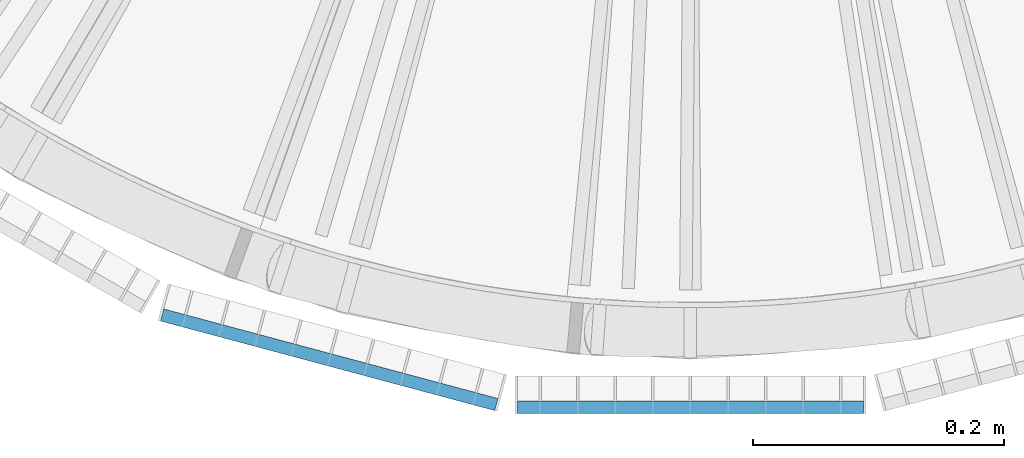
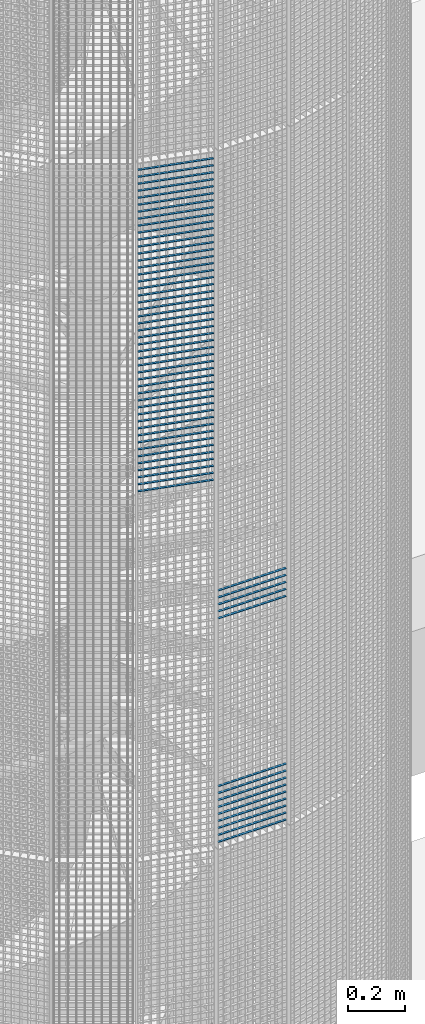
# One storey, part 143 of 1148: 61 beams, 2 elements without a shape of their own.
"""IFC2X3 building model written with IfcOpenShell, lengths in millimetres."""

from ifc_helpers import new_model, si_unit, frame, origin_with_axes, origin_2d_with_axis, place, context, subcontext, project, spatial, rectangle, extrude, material, type_object, element, aggregate, save


model = new_model("IFC2X3")

# Units and contexts
model_context = context("Model", 3, precision=1e-05, world=origin_with_axes())
body_context = subcontext(model_context, "Body", "Model", "MODEL_VIEW")
ifc_project = project(units=[si_unit("LENGTHUNIT", "METRE", prefix="MILLI"), si_unit("AREAUNIT", "SQUARE_METRE"), si_unit("VOLUMEUNIT", "CUBIC_METRE"), si_unit("MASSUNIT", "GRAM", prefix="KILO"), si_unit("TIMEUNIT", "SECOND"), si_unit("PLANEANGLEUNIT", "RADIAN"), si_unit("SOLIDANGLEUNIT", "STERADIAN"), si_unit("THERMODYNAMICTEMPERATUREUNIT", "DEGREE_CELSIUS"), si_unit("LUMINOUSINTENSITYUNIT", "LUMEN")], contexts=[model_context])

# Site, building, storey
site_placement = place(None, origin_with_axes())
site = spatial("IfcSite", under=ifc_project, at=site_placement, Name="Undefined", CompositionType="ELEMENT")
building_placement = place(site_placement, origin_with_axes())
building = spatial("IfcBuilding", under=site, at=building_placement, Name="Undefined", CompositionType="ELEMENT")
storey_placement = place(building_placement, origin_with_axes())
storey = spatial("IfcBuildingStorey", under=building, at=storey_placement, Name="Undefined", CompositionType="ELEMENT", Elevation=0.0)

# Assembly, beams
assembly_1_placement = place(storey_placement, origin_with_axes())
assembly_1 = element("IfcElementAssembly", 1, at=assembly_1_placement, inside=storey, Name="BORDURE", AssemblyPlace="NOTDEFINED", PredefinedType="NOTDEFINED")
ifc_material = material(Name="STEEL/S235JR")
beam_type = type_object("IfcBeamType", Name="PL2*10", PredefinedType="NOTDEFINED")
beam_1_placement = place(assembly_1_placement, frame((-137.996003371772, -1113.47999999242, 12270.0), z_axis=(0.0, -1.0, 0.0), x_axis=(1.0, 0.0, 0.0)))
beam_1 = element("IfcBeam", 2, at=beam_1_placement, type_object=beam_type, material=ifc_material, Name="ENTRETOISE", context=body_context, shape_type="SweptSolid", body=[
    extrude(rectangle(XDim=2.0, YDim=10.0, at=origin_2d_with_axis()), frame((275.999999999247, 9.09494701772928e-13, 1.53210777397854e-14), z_axis=(-1.0, 0.0, 0.0), x_axis=(0.0, -1.0, 0.0)), (0.0, 0.0, 1.0), 276.0),
])
beam_2_placement = place(assembly_1_placement, frame((-137.996003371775, -1113.47999999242, 12990.0), z_axis=(0.0, -1.0, 0.0), x_axis=(1.0, 0.0, 0.0)))
beam_2 = element("IfcBeam", 3, at=beam_2_placement, type_object=beam_type, material=ifc_material, Name="ENTRETOISE", context=body_context, shape_type="SweptSolid", body=[
    extrude(rectangle(XDim=2.0, YDim=10.0, at=origin_2d_with_axis()), frame((275.999999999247, 9.09494701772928e-13, 1.53210777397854e-14), z_axis=(-1.0, 0.0, 0.0), x_axis=(0.0, -1.0, 0.0)), (0.0, 0.0, 1.0), 276.0),
])
beam_3_placement = place(assembly_1_placement, frame((-137.996003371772, -1113.47999999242, 12240.0), z_axis=(0.0, -1.0, 0.0), x_axis=(1.0, 0.0, 0.0)))
beam_3 = element("IfcBeam", 4, at=beam_3_placement, type_object=beam_type, material=ifc_material, Name="ENTRETOISE", context=body_context, shape_type="SweptSolid", body=[
    extrude(rectangle(XDim=2.0, YDim=10.0, at=origin_2d_with_axis()), frame((275.999999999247, 9.09494701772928e-13, 1.53210777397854e-14), z_axis=(-1.0, 0.0, 0.0), x_axis=(0.0, -1.0, 0.0)), (0.0, 0.0, 1.0), 276.0),
])
beam_4_placement = place(assembly_1_placement, frame((-137.996003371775, -1113.47999999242, 13020.0), z_axis=(0.0, -1.0, 0.0), x_axis=(1.0, 0.0, 0.0)))
beam_4 = element("IfcBeam", 5, at=beam_4_placement, type_object=beam_type, material=ifc_material, Name="ENTRETOISE", context=body_context, shape_type="SweptSolid", body=[
    extrude(rectangle(XDim=2.0, YDim=10.0, at=origin_2d_with_axis()), frame((275.999999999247, 9.09494701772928e-13, 1.53210777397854e-14), z_axis=(-1.0, 0.0, 0.0), x_axis=(0.0, -1.0, 0.0)), (0.0, 0.0, 1.0), 276.0),
])
beam_5_placement = place(assembly_1_placement, frame((-137.996003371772, -1113.47999999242, 12210.0), z_axis=(0.0, -1.0, 0.0), x_axis=(1.0, 0.0, 0.0)))
beam_5 = element("IfcBeam", 6, at=beam_5_placement, type_object=beam_type, material=ifc_material, Name="ENTRETOISE", context=body_context, shape_type="SweptSolid", body=[
    extrude(rectangle(XDim=2.0, YDim=10.0, at=origin_2d_with_axis()), frame((275.999999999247, 9.09494701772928e-13, 1.53210777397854e-14), z_axis=(-1.0, 0.0, 0.0), x_axis=(0.0, -1.0, 0.0)), (0.0, 0.0, 1.0), 276.0),
])
beam_6_placement = place(assembly_1_placement, frame((-137.996003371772, -1113.47999999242, 12180.0), z_axis=(0.0, -1.0, 0.0), x_axis=(1.0, 0.0, 0.0)))
beam_6 = element("IfcBeam", 7, at=beam_6_placement, type_object=beam_type, material=ifc_material, Name="ENTRETOISE", context=body_context, shape_type="SweptSolid", body=[
    extrude(rectangle(XDim=2.0, YDim=10.0, at=origin_2d_with_axis()), frame((275.999999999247, 9.09494701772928e-13, 1.53210777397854e-14), z_axis=(-1.0, 0.0, 0.0), x_axis=(0.0, -1.0, 0.0)), (0.0, 0.0, 1.0), 276.0),
])
beam_7_placement = place(assembly_1_placement, frame((-137.996003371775, -1113.47999999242, 13050.0), z_axis=(0.0, -1.0, 0.0), x_axis=(1.0, 0.0, 0.0)))
beam_7 = element("IfcBeam", 8, at=beam_7_placement, type_object=beam_type, material=ifc_material, Name="ENTRETOISE", context=body_context, shape_type="SweptSolid", body=[
    extrude(rectangle(XDim=2.0, YDim=10.0, at=origin_2d_with_axis()), frame((275.999999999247, 9.09494701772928e-13, 1.53210777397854e-14), z_axis=(-1.0, 0.0, 0.0), x_axis=(0.0, -1.0, 0.0)), (0.0, 0.0, 1.0), 276.0),
])
beam_8_placement = place(assembly_1_placement, frame((-137.996003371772, -1113.47999999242, 12150.0), z_axis=(0.0, -1.0, 0.0), x_axis=(1.0, 0.0, 0.0)))
beam_8 = element("IfcBeam", 9, at=beam_8_placement, type_object=beam_type, material=ifc_material, Name="ENTRETOISE", context=body_context, shape_type="SweptSolid", body=[
    extrude(rectangle(XDim=2.0, YDim=10.0, at=origin_2d_with_axis()), frame((275.999999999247, 9.09494701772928e-13, 1.53210777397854e-14), z_axis=(-1.0, 0.0, 0.0), x_axis=(0.0, -1.0, 0.0)), (0.0, 0.0, 1.0), 276.0),
])
beam_9_placement = place(assembly_1_placement, frame((-137.996003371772, -1113.47999999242, 12120.0), z_axis=(0.0, -1.0, 0.0), x_axis=(1.0, 0.0, 0.0)))
beam_9 = element("IfcBeam", 10, at=beam_9_placement, type_object=beam_type, material=ifc_material, Name="ENTRETOISE", context=body_context, shape_type="SweptSolid", body=[
    extrude(rectangle(XDim=2.0, YDim=10.0, at=origin_2d_with_axis()), frame((275.999999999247, 9.09494701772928e-13, 1.53210777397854e-14), z_axis=(-1.0, 0.0, 0.0), x_axis=(0.0, -1.0, 0.0)), (0.0, 0.0, 1.0), 276.0),
])
beam_10_placement = place(assembly_1_placement, frame((-137.996003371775, -1113.47999999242, 13080.0), z_axis=(0.0, -1.0, 0.0), x_axis=(1.0, 0.0, 0.0)))
beam_10 = element("IfcBeam", 11, at=beam_10_placement, type_object=beam_type, material=ifc_material, Name="ENTRETOISE", context=body_context, shape_type="SweptSolid", body=[
    extrude(rectangle(XDim=2.0, YDim=10.0, at=origin_2d_with_axis()), frame((275.999999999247, 9.09494701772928e-13, 1.53210777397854e-14), z_axis=(-1.0, 0.0, 0.0), x_axis=(0.0, -1.0, 0.0)), (0.0, 0.0, 1.0), 276.0),
])
beam_11_placement = place(assembly_1_placement, frame((-137.996003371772, -1113.47999999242, 12090.0), z_axis=(0.0, -1.0, 0.0), x_axis=(1.0, 0.0, 0.0)))
beam_11 = element("IfcBeam", 12, at=beam_11_placement, type_object=beam_type, material=ifc_material, Name="ENTRETOISE", context=body_context, shape_type="SweptSolid", body=[
    extrude(rectangle(XDim=2.0, YDim=10.0, at=origin_2d_with_axis()), frame((275.999999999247, 9.09494701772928e-13, 1.53210777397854e-14), z_axis=(-1.0, 0.0, 0.0), x_axis=(0.0, -1.0, 0.0)), (0.0, 0.0, 1.0), 276.0),
])
beam_12_placement = place(assembly_1_placement, frame((-137.996003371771, -1113.47999999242, 12060.0), z_axis=(0.0, -1.0, 0.0), x_axis=(1.0, 0.0, 0.0)))
beam_12 = element("IfcBeam", 13, at=beam_12_placement, type_object=beam_type, material=ifc_material, Name="ENTRETOISE", context=body_context, shape_type="SweptSolid", body=[
    extrude(rectangle(XDim=2.0, YDim=10.0, at=origin_2d_with_axis()), frame((275.999999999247, 9.09494701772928e-13, 1.53210777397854e-14), z_axis=(-1.0, 0.0, 0.0), x_axis=(0.0, -1.0, 0.0)), (0.0, 0.0, 1.0), 276.0),
])
beam_13_placement = place(assembly_1_placement, frame((-137.996003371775, -1113.47999999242, 13110.0), z_axis=(0.0, -1.0, 0.0), x_axis=(1.0, 0.0, 0.0)))
beam_13 = element("IfcBeam", 14, at=beam_13_placement, type_object=beam_type, material=ifc_material, Name="ENTRETOISE", context=body_context, shape_type="SweptSolid", body=[
    extrude(rectangle(XDim=2.0, YDim=10.0, at=origin_2d_with_axis()), frame((275.999999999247, 9.09494701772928e-13, 1.53210777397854e-14), z_axis=(-1.0, 0.0, 0.0), x_axis=(0.0, -1.0, 0.0)), (0.0, 0.0, 1.0), 276.0),
])
beam_14_placement = place(assembly_1_placement, frame((-137.99600337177, -1113.47999999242, 12030.0), z_axis=(0.0, -1.0, 0.0), x_axis=(1.0, 0.0, 0.0)))
beam_14 = element("IfcBeam", 15, at=beam_14_placement, type_object=beam_type, material=ifc_material, Name="ENTRETOISE", context=body_context, shape_type="SweptSolid", body=[
    extrude(rectangle(XDim=2.0, YDim=10.0, at=origin_2d_with_axis()), frame((275.999999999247, 9.09494701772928e-13, 1.53210777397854e-14), z_axis=(-1.0, 0.0, 0.0), x_axis=(0.0, -1.0, 0.0)), (0.0, 0.0, 1.0), 276.0),
])
aggregate(assembly_1, [beam_1, beam_2, beam_3, beam_4, beam_5, beam_6, beam_7, beam_8, beam_9, beam_10, beam_11, beam_12, beam_13, beam_14])

assembly_2_placement = place(storey_placement, origin_with_axes())
assembly_2 = element("IfcElementAssembly", 16, at=assembly_2_placement, inside=storey, Name="BORDURE", AssemblyPlace="NOTDEFINED", PredefinedType="NOTDEFINED")
beam_15_placement = place(assembly_2_placement, frame((-421.483733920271, -1039.82309522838, 14970.0), z_axis=(-0.258819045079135, -0.965925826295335, 0.0), x_axis=(0.965925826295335, -0.258819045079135, 0.0)))
beam_15 = element("IfcBeam", 17, at=beam_15_placement, type_object=beam_type, material=ifc_material, Name="ENTRETOISE", context=body_context, shape_type="SweptSolid", body=[
    extrude(rectangle(XDim=2.0, YDim=10.0, at=origin_2d_with_axis()), frame((275.999999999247, 9.09494701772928e-13, 1.53210777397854e-14), z_axis=(-1.0, 0.0, 0.0), x_axis=(0.0, -1.0, 0.0)), (0.0, 0.0, 1.0), 276.0),
])
beam_16_placement = place(assembly_2_placement, frame((-421.483733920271, -1039.82309522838, 14940.0), z_axis=(-0.258819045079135, -0.965925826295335, 0.0), x_axis=(0.965925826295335, -0.258819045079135, 0.0)))
beam_16 = element("IfcBeam", 18, at=beam_16_placement, type_object=beam_type, material=ifc_material, Name="ENTRETOISE", context=body_context, shape_type="SweptSolid", body=[
    extrude(rectangle(XDim=2.0, YDim=10.0, at=origin_2d_with_axis()), frame((275.999999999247, 9.09494701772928e-13, 1.53210777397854e-14), z_axis=(-1.0, 0.0, 0.0), x_axis=(0.0, -1.0, 0.0)), (0.0, 0.0, 1.0), 276.0),
])
beam_17_placement = place(assembly_2_placement, frame((-421.483733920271, -1039.82309522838, 14910.0), z_axis=(-0.258819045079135, -0.965925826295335, 0.0), x_axis=(0.965925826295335, -0.258819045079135, 0.0)))
beam_17 = element("IfcBeam", 19, at=beam_17_placement, type_object=beam_type, material=ifc_material, Name="ENTRETOISE", context=body_context, shape_type="SweptSolid", body=[
    extrude(rectangle(XDim=2.0, YDim=10.0, at=origin_2d_with_axis()), frame((275.999999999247, 9.09494701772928e-13, 1.53210777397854e-14), z_axis=(-1.0, 0.0, 0.0), x_axis=(0.0, -1.0, 0.0)), (0.0, 0.0, 1.0), 276.0),
])
beam_18_placement = place(assembly_2_placement, frame((-421.483733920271, -1039.82309522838, 14880.0), z_axis=(-0.258819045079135, -0.965925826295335, 0.0), x_axis=(0.965925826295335, -0.258819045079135, 0.0)))
beam_18 = element("IfcBeam", 20, at=beam_18_placement, type_object=beam_type, material=ifc_material, Name="ENTRETOISE", context=body_context, shape_type="SweptSolid", body=[
    extrude(rectangle(XDim=2.0, YDim=10.0, at=origin_2d_with_axis()), frame((275.999999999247, 9.09494701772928e-13, 1.53210777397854e-14), z_axis=(-1.0, 0.0, 0.0), x_axis=(0.0, -1.0, 0.0)), (0.0, 0.0, 1.0), 276.0),
])
beam_19_placement = place(assembly_2_placement, frame((-421.483733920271, -1039.82309522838, 14850.0), z_axis=(-0.258819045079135, -0.965925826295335, 0.0), x_axis=(0.965925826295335, -0.258819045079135, 0.0)))
beam_19 = element("IfcBeam", 21, at=beam_19_placement, type_object=beam_type, material=ifc_material, Name="ENTRETOISE", context=body_context, shape_type="SweptSolid", body=[
    extrude(rectangle(XDim=2.0, YDim=10.0, at=origin_2d_with_axis()), frame((275.999999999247, 9.09494701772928e-13, 1.53210777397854e-14), z_axis=(-1.0, 0.0, 0.0), x_axis=(0.0, -1.0, 0.0)), (0.0, 0.0, 1.0), 276.0),
])
beam_20_placement = place(assembly_2_placement, frame((-421.483733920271, -1039.82309522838, 14820.0), z_axis=(-0.258819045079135, -0.965925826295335, 0.0), x_axis=(0.965925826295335, -0.258819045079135, 0.0)))
beam_20 = element("IfcBeam", 22, at=beam_20_placement, type_object=beam_type, material=ifc_material, Name="ENTRETOISE", context=body_context, shape_type="SweptSolid", body=[
    extrude(rectangle(XDim=2.0, YDim=10.0, at=origin_2d_with_axis()), frame((275.999999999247, 9.09494701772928e-13, 1.53210777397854e-14), z_axis=(-1.0, 0.0, 0.0), x_axis=(0.0, -1.0, 0.0)), (0.0, 0.0, 1.0), 276.0),
])
beam_21_placement = place(assembly_2_placement, frame((-421.483733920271, -1039.82309522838, 14790.0), z_axis=(-0.258819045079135, -0.965925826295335, 0.0), x_axis=(0.965925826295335, -0.258819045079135, 0.0)))
beam_21 = element("IfcBeam", 23, at=beam_21_placement, type_object=beam_type, material=ifc_material, Name="ENTRETOISE", context=body_context, shape_type="SweptSolid", body=[
    extrude(rectangle(XDim=2.0, YDim=10.0, at=origin_2d_with_axis()), frame((275.999999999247, 9.09494701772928e-13, 1.53210777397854e-14), z_axis=(-1.0, 0.0, 0.0), x_axis=(0.0, -1.0, 0.0)), (0.0, 0.0, 1.0), 276.0),
])
beam_22_placement = place(assembly_2_placement, frame((-421.483733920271, -1039.82309522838, 14760.0), z_axis=(-0.258819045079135, -0.965925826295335, 0.0), x_axis=(0.965925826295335, -0.258819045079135, 0.0)))
beam_22 = element("IfcBeam", 24, at=beam_22_placement, type_object=beam_type, material=ifc_material, Name="ENTRETOISE", context=body_context, shape_type="SweptSolid", body=[
    extrude(rectangle(XDim=2.0, YDim=10.0, at=origin_2d_with_axis()), frame((275.999999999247, 9.09494701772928e-13, 1.53210777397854e-14), z_axis=(-1.0, 0.0, 0.0), x_axis=(0.0, -1.0, 0.0)), (0.0, 0.0, 1.0), 276.0),
])
beam_23_placement = place(assembly_2_placement, frame((-421.483733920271, -1039.82309522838, 14730.0), z_axis=(-0.258819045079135, -0.965925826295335, 0.0), x_axis=(0.965925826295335, -0.258819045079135, 0.0)))
beam_23 = element("IfcBeam", 25, at=beam_23_placement, type_object=beam_type, material=ifc_material, Name="ENTRETOISE", context=body_context, shape_type="SweptSolid", body=[
    extrude(rectangle(XDim=2.0, YDim=10.0, at=origin_2d_with_axis()), frame((275.999999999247, 9.09494701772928e-13, 1.53210777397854e-14), z_axis=(-1.0, 0.0, 0.0), x_axis=(0.0, -1.0, 0.0)), (0.0, 0.0, 1.0), 276.0),
])
beam_24_placement = place(assembly_2_placement, frame((-421.48373392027, -1039.82309522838, 14700.0), z_axis=(-0.258819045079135, -0.965925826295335, 0.0), x_axis=(0.965925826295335, -0.258819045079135, 0.0)))
beam_24 = element("IfcBeam", 26, at=beam_24_placement, type_object=beam_type, material=ifc_material, Name="ENTRETOISE", context=body_context, shape_type="SweptSolid", body=[
    extrude(rectangle(XDim=2.0, YDim=10.0, at=origin_2d_with_axis()), frame((275.999999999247, 9.09494701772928e-13, 1.53210777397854e-14), z_axis=(-1.0, 0.0, 0.0), x_axis=(0.0, -1.0, 0.0)), (0.0, 0.0, 1.0), 276.0),
])
beam_25_placement = place(assembly_2_placement, frame((-421.48373392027, -1039.82309522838, 14670.0), z_axis=(-0.258819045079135, -0.965925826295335, 0.0), x_axis=(0.965925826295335, -0.258819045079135, 0.0)))
beam_25 = element("IfcBeam", 27, at=beam_25_placement, type_object=beam_type, material=ifc_material, Name="ENTRETOISE", context=body_context, shape_type="SweptSolid", body=[
    extrude(rectangle(XDim=2.0, YDim=10.0, at=origin_2d_with_axis()), frame((275.999999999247, 9.09494701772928e-13, 1.53210777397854e-14), z_axis=(-1.0, 0.0, 0.0), x_axis=(0.0, -1.0, 0.0)), (0.0, 0.0, 1.0), 276.0),
])
beam_26_placement = place(assembly_2_placement, frame((-421.48373392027, -1039.82309522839, 14640.0), z_axis=(-0.258819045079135, -0.965925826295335, 0.0), x_axis=(0.965925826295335, -0.258819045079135, 0.0)))
beam_26 = element("IfcBeam", 28, at=beam_26_placement, type_object=beam_type, material=ifc_material, Name="ENTRETOISE", context=body_context, shape_type="SweptSolid", body=[
    extrude(rectangle(XDim=2.0, YDim=10.0, at=origin_2d_with_axis()), frame((275.999999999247, 9.09494701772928e-13, 1.53210777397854e-14), z_axis=(-1.0, 0.0, 0.0), x_axis=(0.0, -1.0, 0.0)), (0.0, 0.0, 1.0), 276.0),
])
beam_27_placement = place(assembly_2_placement, frame((-421.48373392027, -1039.82309522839, 14610.0), z_axis=(-0.258819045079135, -0.965925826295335, 0.0), x_axis=(0.965925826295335, -0.258819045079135, 0.0)))
beam_27 = element("IfcBeam", 29, at=beam_27_placement, type_object=beam_type, material=ifc_material, Name="ENTRETOISE", context=body_context, shape_type="SweptSolid", body=[
    extrude(rectangle(XDim=2.0, YDim=10.0, at=origin_2d_with_axis()), frame((275.999999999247, 9.09494701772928e-13, 1.53210777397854e-14), z_axis=(-1.0, 0.0, 0.0), x_axis=(0.0, -1.0, 0.0)), (0.0, 0.0, 1.0), 276.0),
])
beam_28_placement = place(assembly_2_placement, frame((-421.48373392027, -1039.82309522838, 14580.0), z_axis=(-0.258819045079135, -0.965925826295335, 0.0), x_axis=(0.965925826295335, -0.258819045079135, 0.0)))
beam_28 = element("IfcBeam", 30, at=beam_28_placement, type_object=beam_type, material=ifc_material, Name="ENTRETOISE", context=body_context, shape_type="SweptSolid", body=[
    extrude(rectangle(XDim=2.0, YDim=10.0, at=origin_2d_with_axis()), frame((275.999999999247, 9.09494701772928e-13, 1.53210777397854e-14), z_axis=(-1.0, 0.0, 0.0), x_axis=(0.0, -1.0, 0.0)), (0.0, 0.0, 1.0), 276.0),
])
beam_29_placement = place(assembly_2_placement, frame((-421.48373392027, -1039.82309522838, 14550.0), z_axis=(-0.258819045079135, -0.965925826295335, 0.0), x_axis=(0.965925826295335, -0.258819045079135, 0.0)))
beam_29 = element("IfcBeam", 31, at=beam_29_placement, type_object=beam_type, material=ifc_material, Name="ENTRETOISE", context=body_context, shape_type="SweptSolid", body=[
    extrude(rectangle(XDim=2.0, YDim=10.0, at=origin_2d_with_axis()), frame((275.999999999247, 9.09494701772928e-13, 1.53210777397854e-14), z_axis=(-1.0, 0.0, 0.0), x_axis=(0.0, -1.0, 0.0)), (0.0, 0.0, 1.0), 276.0),
])
beam_30_placement = place(assembly_2_placement, frame((-421.48373392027, -1039.82309522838, 14520.0), z_axis=(-0.258819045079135, -0.965925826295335, 0.0), x_axis=(0.965925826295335, -0.258819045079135, 0.0)))
beam_30 = element("IfcBeam", 32, at=beam_30_placement, type_object=beam_type, material=ifc_material, Name="ENTRETOISE", context=body_context, shape_type="SweptSolid", body=[
    extrude(rectangle(XDim=2.0, YDim=10.0, at=origin_2d_with_axis()), frame((275.999999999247, 9.09494701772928e-13, 1.53210777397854e-14), z_axis=(-1.0, 0.0, 0.0), x_axis=(0.0, -1.0, 0.0)), (0.0, 0.0, 1.0), 276.0),
])
beam_31_placement = place(assembly_2_placement, frame((-421.48373392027, -1039.82309522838, 14490.0), z_axis=(-0.258819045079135, -0.965925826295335, 0.0), x_axis=(0.965925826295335, -0.258819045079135, 0.0)))
beam_31 = element("IfcBeam", 33, at=beam_31_placement, type_object=beam_type, material=ifc_material, Name="ENTRETOISE", context=body_context, shape_type="SweptSolid", body=[
    extrude(rectangle(XDim=2.0, YDim=10.0, at=origin_2d_with_axis()), frame((275.999999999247, 9.09494701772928e-13, 1.53210777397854e-14), z_axis=(-1.0, 0.0, 0.0), x_axis=(0.0, -1.0, 0.0)), (0.0, 0.0, 1.0), 276.0),
])
beam_32_placement = place(assembly_2_placement, frame((-421.48373392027, -1039.82309522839, 14460.0), z_axis=(-0.258819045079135, -0.965925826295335, 0.0), x_axis=(0.965925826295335, -0.258819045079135, 0.0)))
beam_32 = element("IfcBeam", 34, at=beam_32_placement, type_object=beam_type, material=ifc_material, Name="ENTRETOISE", context=body_context, shape_type="SweptSolid", body=[
    extrude(rectangle(XDim=2.0, YDim=10.0, at=origin_2d_with_axis()), frame((275.999999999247, 9.09494701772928e-13, 1.53210777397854e-14), z_axis=(-1.0, 0.0, 0.0), x_axis=(0.0, -1.0, 0.0)), (0.0, 0.0, 1.0), 276.0),
])
beam_33_placement = place(assembly_2_placement, frame((-421.48373392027, -1039.82309522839, 14430.0), z_axis=(-0.258819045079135, -0.965925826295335, 0.0), x_axis=(0.965925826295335, -0.258819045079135, 0.0)))
beam_33 = element("IfcBeam", 35, at=beam_33_placement, type_object=beam_type, material=ifc_material, Name="ENTRETOISE", context=body_context, shape_type="SweptSolid", body=[
    extrude(rectangle(XDim=2.0, YDim=10.0, at=origin_2d_with_axis()), frame((275.999999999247, 9.09494701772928e-13, 1.53210777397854e-14), z_axis=(-1.0, 0.0, 0.0), x_axis=(0.0, -1.0, 0.0)), (0.0, 0.0, 1.0), 276.0),
])
beam_34_placement = place(assembly_2_placement, frame((-421.483733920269, -1039.82309522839, 14400.0), z_axis=(-0.258819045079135, -0.965925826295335, 0.0), x_axis=(0.965925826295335, -0.258819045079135, 0.0)))
beam_34 = element("IfcBeam", 36, at=beam_34_placement, type_object=beam_type, material=ifc_material, Name="ENTRETOISE", context=body_context, shape_type="SweptSolid", body=[
    extrude(rectangle(XDim=2.0, YDim=10.0, at=origin_2d_with_axis()), frame((275.999999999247, 9.09494701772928e-13, 1.53210777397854e-14), z_axis=(-1.0, 0.0, 0.0), x_axis=(0.0, -1.0, 0.0)), (0.0, 0.0, 1.0), 276.0),
])
beam_35_placement = place(assembly_2_placement, frame((-421.483733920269, -1039.82309522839, 14370.0), z_axis=(-0.258819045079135, -0.965925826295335, 0.0), x_axis=(0.965925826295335, -0.258819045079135, 0.0)))
beam_35 = element("IfcBeam", 37, at=beam_35_placement, type_object=beam_type, material=ifc_material, Name="ENTRETOISE", context=body_context, shape_type="SweptSolid", body=[
    extrude(rectangle(XDim=2.0, YDim=10.0, at=origin_2d_with_axis()), frame((275.999999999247, 9.09494701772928e-13, 1.53210777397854e-14), z_axis=(-1.0, 0.0, 0.0), x_axis=(0.0, -1.0, 0.0)), (0.0, 0.0, 1.0), 276.0),
])
beam_36_placement = place(assembly_2_placement, frame((-421.483733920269, -1039.82309522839, 14340.0), z_axis=(-0.258819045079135, -0.965925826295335, 0.0), x_axis=(0.965925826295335, -0.258819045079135, 0.0)))
beam_36 = element("IfcBeam", 38, at=beam_36_placement, type_object=beam_type, material=ifc_material, Name="ENTRETOISE", context=body_context, shape_type="SweptSolid", body=[
    extrude(rectangle(XDim=2.0, YDim=10.0, at=origin_2d_with_axis()), frame((275.999999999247, 9.09494701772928e-13, 1.53210777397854e-14), z_axis=(-1.0, 0.0, 0.0), x_axis=(0.0, -1.0, 0.0)), (0.0, 0.0, 1.0), 276.0),
])
beam_37_placement = place(assembly_2_placement, frame((-421.483733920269, -1039.82309522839, 14310.0), z_axis=(-0.258819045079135, -0.965925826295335, 0.0), x_axis=(0.965925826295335, -0.258819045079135, 0.0)))
beam_37 = element("IfcBeam", 39, at=beam_37_placement, type_object=beam_type, material=ifc_material, Name="ENTRETOISE", context=body_context, shape_type="SweptSolid", body=[
    extrude(rectangle(XDim=2.0, YDim=10.0, at=origin_2d_with_axis()), frame((275.999999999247, 9.09494701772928e-13, 1.53210777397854e-14), z_axis=(-1.0, 0.0, 0.0), x_axis=(0.0, -1.0, 0.0)), (0.0, 0.0, 1.0), 276.0),
])
beam_38_placement = place(assembly_2_placement, frame((-421.483733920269, -1039.82309522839, 14280.0), z_axis=(-0.258819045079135, -0.965925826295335, 0.0), x_axis=(0.965925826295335, -0.258819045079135, 0.0)))
beam_38 = element("IfcBeam", 40, at=beam_38_placement, type_object=beam_type, material=ifc_material, Name="ENTRETOISE", context=body_context, shape_type="SweptSolid", body=[
    extrude(rectangle(XDim=2.0, YDim=10.0, at=origin_2d_with_axis()), frame((275.999999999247, 9.09494701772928e-13, 1.53210777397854e-14), z_axis=(-1.0, 0.0, 0.0), x_axis=(0.0, -1.0, 0.0)), (0.0, 0.0, 1.0), 276.0),
])
beam_39_placement = place(assembly_2_placement, frame((-421.483733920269, -1039.82309522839, 14250.0), z_axis=(-0.258819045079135, -0.965925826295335, 0.0), x_axis=(0.965925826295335, -0.258819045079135, 0.0)))
beam_39 = element("IfcBeam", 41, at=beam_39_placement, type_object=beam_type, material=ifc_material, Name="ENTRETOISE", context=body_context, shape_type="SweptSolid", body=[
    extrude(rectangle(XDim=2.0, YDim=10.0, at=origin_2d_with_axis()), frame((275.999999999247, 9.09494701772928e-13, 1.53210777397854e-14), z_axis=(-1.0, 0.0, 0.0), x_axis=(0.0, -1.0, 0.0)), (0.0, 0.0, 1.0), 276.0),
])
beam_40_placement = place(assembly_2_placement, frame((-421.483733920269, -1039.82309522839, 14220.0), z_axis=(-0.258819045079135, -0.965925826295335, 0.0), x_axis=(0.965925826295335, -0.258819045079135, 0.0)))
beam_40 = element("IfcBeam", 42, at=beam_40_placement, type_object=beam_type, material=ifc_material, Name="ENTRETOISE", context=body_context, shape_type="SweptSolid", body=[
    extrude(rectangle(XDim=2.0, YDim=10.0, at=origin_2d_with_axis()), frame((275.999999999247, 9.09494701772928e-13, 1.53210777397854e-14), z_axis=(-1.0, 0.0, 0.0), x_axis=(0.0, -1.0, 0.0)), (0.0, 0.0, 1.0), 276.0),
])
beam_41_placement = place(assembly_2_placement, frame((-421.483733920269, -1039.82309522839, 14190.0), z_axis=(-0.258819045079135, -0.965925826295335, 0.0), x_axis=(0.965925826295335, -0.258819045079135, 0.0)))
beam_41 = element("IfcBeam", 43, at=beam_41_placement, type_object=beam_type, material=ifc_material, Name="ENTRETOISE", context=body_context, shape_type="SweptSolid", body=[
    extrude(rectangle(XDim=2.0, YDim=10.0, at=origin_2d_with_axis()), frame((275.999999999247, 9.09494701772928e-13, 1.53210777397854e-14), z_axis=(-1.0, 0.0, 0.0), x_axis=(0.0, -1.0, 0.0)), (0.0, 0.0, 1.0), 276.0),
])
beam_42_placement = place(assembly_2_placement, frame((-421.483733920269, -1039.82309522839, 14160.0), z_axis=(-0.258819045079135, -0.965925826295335, 0.0), x_axis=(0.965925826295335, -0.258819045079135, 0.0)))
beam_42 = element("IfcBeam", 44, at=beam_42_placement, type_object=beam_type, material=ifc_material, Name="ENTRETOISE", context=body_context, shape_type="SweptSolid", body=[
    extrude(rectangle(XDim=2.0, YDim=10.0, at=origin_2d_with_axis()), frame((275.999999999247, 9.09494701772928e-13, 1.53210777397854e-14), z_axis=(-1.0, 0.0, 0.0), x_axis=(0.0, -1.0, 0.0)), (0.0, 0.0, 1.0), 276.0),
])
beam_43_placement = place(assembly_2_placement, frame((-421.483733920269, -1039.82309522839, 14130.0), z_axis=(-0.258819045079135, -0.965925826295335, 0.0), x_axis=(0.965925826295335, -0.258819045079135, 0.0)))
beam_43 = element("IfcBeam", 45, at=beam_43_placement, type_object=beam_type, material=ifc_material, Name="ENTRETOISE", context=body_context, shape_type="SweptSolid", body=[
    extrude(rectangle(XDim=2.0, YDim=10.0, at=origin_2d_with_axis()), frame((275.999999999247, 9.09494701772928e-13, 1.53210777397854e-14), z_axis=(-1.0, 0.0, 0.0), x_axis=(0.0, -1.0, 0.0)), (0.0, 0.0, 1.0), 276.0),
])
beam_44_placement = place(assembly_2_placement, frame((-421.483733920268, -1039.82309522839, 14100.0), z_axis=(-0.258819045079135, -0.965925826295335, 0.0), x_axis=(0.965925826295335, -0.258819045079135, 0.0)))
beam_44 = element("IfcBeam", 46, at=beam_44_placement, type_object=beam_type, material=ifc_material, Name="ENTRETOISE", context=body_context, shape_type="SweptSolid", body=[
    extrude(rectangle(XDim=2.0, YDim=10.0, at=origin_2d_with_axis()), frame((275.999999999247, 9.09494701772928e-13, 1.53210777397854e-14), z_axis=(-1.0, 0.0, 0.0), x_axis=(0.0, -1.0, 0.0)), (0.0, 0.0, 1.0), 276.0),
])
beam_45_placement = place(assembly_2_placement, frame((-421.483733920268, -1039.82309522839, 14070.0), z_axis=(-0.258819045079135, -0.965925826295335, 0.0), x_axis=(0.965925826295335, -0.258819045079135, 0.0)))
beam_45 = element("IfcBeam", 47, at=beam_45_placement, type_object=beam_type, material=ifc_material, Name="ENTRETOISE", context=body_context, shape_type="SweptSolid", body=[
    extrude(rectangle(XDim=2.0, YDim=10.0, at=origin_2d_with_axis()), frame((275.999999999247, 9.09494701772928e-13, 1.53210777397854e-14), z_axis=(-1.0, 0.0, 0.0), x_axis=(0.0, -1.0, 0.0)), (0.0, 0.0, 1.0), 276.0),
])
beam_46_placement = place(assembly_2_placement, frame((-421.483733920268, -1039.82309522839, 14040.0), z_axis=(-0.258819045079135, -0.965925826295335, 0.0), x_axis=(0.965925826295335, -0.258819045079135, 0.0)))
beam_46 = element("IfcBeam", 48, at=beam_46_placement, type_object=beam_type, material=ifc_material, Name="ENTRETOISE", context=body_context, shape_type="SweptSolid", body=[
    extrude(rectangle(XDim=2.0, YDim=10.0, at=origin_2d_with_axis()), frame((275.999999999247, 9.09494701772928e-13, 1.53210777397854e-14), z_axis=(-1.0, 0.0, 0.0), x_axis=(0.0, -1.0, 0.0)), (0.0, 0.0, 1.0), 276.0),
])
beam_47_placement = place(assembly_2_placement, frame((-421.483733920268, -1039.82309522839, 14010.0), z_axis=(-0.258819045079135, -0.965925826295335, 0.0), x_axis=(0.965925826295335, -0.258819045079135, 0.0)))
beam_47 = element("IfcBeam", 49, at=beam_47_placement, type_object=beam_type, material=ifc_material, Name="ENTRETOISE", context=body_context, shape_type="SweptSolid", body=[
    extrude(rectangle(XDim=2.0, YDim=10.0, at=origin_2d_with_axis()), frame((275.999999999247, 9.09494701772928e-13, 1.53210777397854e-14), z_axis=(-1.0, 0.0, 0.0), x_axis=(0.0, -1.0, 0.0)), (0.0, 0.0, 1.0), 276.0),
])
beam_48_placement = place(assembly_2_placement, frame((-421.483733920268, -1039.82309522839, 13980.0), z_axis=(-0.258819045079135, -0.965925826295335, 0.0), x_axis=(0.965925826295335, -0.258819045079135, 0.0)))
beam_48 = element("IfcBeam", 50, at=beam_48_placement, type_object=beam_type, material=ifc_material, Name="ENTRETOISE", context=body_context, shape_type="SweptSolid", body=[
    extrude(rectangle(XDim=2.0, YDim=10.0, at=origin_2d_with_axis()), frame((275.999999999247, 9.09494701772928e-13, 1.53210777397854e-14), z_axis=(-1.0, 0.0, 0.0), x_axis=(0.0, -1.0, 0.0)), (0.0, 0.0, 1.0), 276.0),
])
beam_49_placement = place(assembly_2_placement, frame((-421.483733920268, -1039.82309522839, 13950.0), z_axis=(-0.258819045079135, -0.965925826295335, 0.0), x_axis=(0.965925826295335, -0.258819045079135, 0.0)))
beam_49 = element("IfcBeam", 51, at=beam_49_placement, type_object=beam_type, material=ifc_material, Name="ENTRETOISE", context=body_context, shape_type="SweptSolid", body=[
    extrude(rectangle(XDim=2.0, YDim=10.0, at=origin_2d_with_axis()), frame((275.999999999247, 9.09494701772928e-13, 1.53210777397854e-14), z_axis=(-1.0, 0.0, 0.0), x_axis=(0.0, -1.0, 0.0)), (0.0, 0.0, 1.0), 276.0),
])
beam_50_placement = place(assembly_2_placement, frame((-421.483733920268, -1039.82309522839, 13920.0), z_axis=(-0.258819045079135, -0.965925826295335, 0.0), x_axis=(0.965925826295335, -0.258819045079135, 0.0)))
beam_50 = element("IfcBeam", 52, at=beam_50_placement, type_object=beam_type, material=ifc_material, Name="ENTRETOISE", context=body_context, shape_type="SweptSolid", body=[
    extrude(rectangle(XDim=2.0, YDim=10.0, at=origin_2d_with_axis()), frame((275.999999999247, 9.09494701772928e-13, 1.53210777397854e-14), z_axis=(-1.0, 0.0, 0.0), x_axis=(0.0, -1.0, 0.0)), (0.0, 0.0, 1.0), 276.0),
])
beam_51_placement = place(assembly_2_placement, frame((-421.483733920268, -1039.82309522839, 13890.0), z_axis=(-0.258819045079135, -0.965925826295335, 0.0), x_axis=(0.965925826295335, -0.258819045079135, 0.0)))
beam_51 = element("IfcBeam", 53, at=beam_51_placement, type_object=beam_type, material=ifc_material, Name="ENTRETOISE", context=body_context, shape_type="SweptSolid", body=[
    extrude(rectangle(XDim=2.0, YDim=10.0, at=origin_2d_with_axis()), frame((275.999999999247, 9.09494701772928e-13, 1.53210777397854e-14), z_axis=(-1.0, 0.0, 0.0), x_axis=(0.0, -1.0, 0.0)), (0.0, 0.0, 1.0), 276.0),
])
beam_52_placement = place(assembly_2_placement, frame((-421.483733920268, -1039.82309522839, 13860.0), z_axis=(-0.258819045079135, -0.965925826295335, 0.0), x_axis=(0.965925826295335, -0.258819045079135, 0.0)))
beam_52 = element("IfcBeam", 54, at=beam_52_placement, type_object=beam_type, material=ifc_material, Name="ENTRETOISE", context=body_context, shape_type="SweptSolid", body=[
    extrude(rectangle(XDim=2.0, YDim=10.0, at=origin_2d_with_axis()), frame((275.999999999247, 9.09494701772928e-13, 1.53210777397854e-14), z_axis=(-1.0, 0.0, 0.0), x_axis=(0.0, -1.0, 0.0)), (0.0, 0.0, 1.0), 276.0),
])
beam_53_placement = place(assembly_2_placement, frame((-421.483733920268, -1039.82309522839, 13830.0), z_axis=(-0.258819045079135, -0.965925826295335, 0.0), x_axis=(0.965925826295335, -0.258819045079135, 0.0)))
beam_53 = element("IfcBeam", 55, at=beam_53_placement, type_object=beam_type, material=ifc_material, Name="ENTRETOISE", context=body_context, shape_type="SweptSolid", body=[
    extrude(rectangle(XDim=2.0, YDim=10.0, at=origin_2d_with_axis()), frame((275.999999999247, 9.09494701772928e-13, 1.53210777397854e-14), z_axis=(-1.0, 0.0, 0.0), x_axis=(0.0, -1.0, 0.0)), (0.0, 0.0, 1.0), 276.0),
])
beam_54_placement = place(assembly_2_placement, frame((-421.483733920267, -1039.82309522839, 13800.0), z_axis=(-0.258819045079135, -0.965925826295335, 0.0), x_axis=(0.965925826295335, -0.258819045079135, 0.0)))
beam_54 = element("IfcBeam", 56, at=beam_54_placement, type_object=beam_type, material=ifc_material, Name="ENTRETOISE", context=body_context, shape_type="SweptSolid", body=[
    extrude(rectangle(XDim=2.0, YDim=10.0, at=origin_2d_with_axis()), frame((275.999999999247, 9.09494701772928e-13, 1.53210777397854e-14), z_axis=(-1.0, 0.0, 0.0), x_axis=(0.0, -1.0, 0.0)), (0.0, 0.0, 1.0), 276.0),
])
beam_55_placement = place(assembly_2_placement, frame((-421.483733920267, -1039.82309522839, 13770.0), z_axis=(-0.258819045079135, -0.965925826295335, 0.0), x_axis=(0.965925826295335, -0.258819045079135, 0.0)))
beam_55 = element("IfcBeam", 57, at=beam_55_placement, type_object=beam_type, material=ifc_material, Name="ENTRETOISE", context=body_context, shape_type="SweptSolid", body=[
    extrude(rectangle(XDim=2.0, YDim=10.0, at=origin_2d_with_axis()), frame((275.999999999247, 9.09494701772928e-13, 1.53210777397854e-14), z_axis=(-1.0, 0.0, 0.0), x_axis=(0.0, -1.0, 0.0)), (0.0, 0.0, 1.0), 276.0),
])
beam_56_placement = place(assembly_2_placement, frame((-421.483733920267, -1039.82309522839, 13740.0), z_axis=(-0.258819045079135, -0.965925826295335, 0.0), x_axis=(0.965925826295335, -0.258819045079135, 0.0)))
beam_56 = element("IfcBeam", 58, at=beam_56_placement, type_object=beam_type, material=ifc_material, Name="ENTRETOISE", context=body_context, shape_type="SweptSolid", body=[
    extrude(rectangle(XDim=2.0, YDim=10.0, at=origin_2d_with_axis()), frame((275.999999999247, 9.09494701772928e-13, 1.53210777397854e-14), z_axis=(-1.0, 0.0, 0.0), x_axis=(0.0, -1.0, 0.0)), (0.0, 0.0, 1.0), 276.0),
])
beam_57_placement = place(assembly_2_placement, frame((-421.483733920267, -1039.82309522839, 13710.0), z_axis=(-0.258819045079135, -0.965925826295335, 0.0), x_axis=(0.965925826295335, -0.258819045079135, 0.0)))
beam_57 = element("IfcBeam", 59, at=beam_57_placement, type_object=beam_type, material=ifc_material, Name="ENTRETOISE", context=body_context, shape_type="SweptSolid", body=[
    extrude(rectangle(XDim=2.0, YDim=10.0, at=origin_2d_with_axis()), frame((275.999999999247, 9.09494701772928e-13, 1.53210777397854e-14), z_axis=(-1.0, 0.0, 0.0), x_axis=(0.0, -1.0, 0.0)), (0.0, 0.0, 1.0), 276.0),
])
beam_58_placement = place(assembly_2_placement, frame((-421.483733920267, -1039.82309522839, 13680.0), z_axis=(-0.258819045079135, -0.965925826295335, 0.0), x_axis=(0.965925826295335, -0.258819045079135, 0.0)))
beam_58 = element("IfcBeam", 60, at=beam_58_placement, type_object=beam_type, material=ifc_material, Name="ENTRETOISE", context=body_context, shape_type="SweptSolid", body=[
    extrude(rectangle(XDim=2.0, YDim=10.0, at=origin_2d_with_axis()), frame((275.999999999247, 9.09494701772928e-13, 1.53210777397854e-14), z_axis=(-1.0, 0.0, 0.0), x_axis=(0.0, -1.0, 0.0)), (0.0, 0.0, 1.0), 276.0),
])
beam_59_placement = place(assembly_2_placement, frame((-421.483733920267, -1039.82309522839, 13650.0), z_axis=(-0.258819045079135, -0.965925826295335, 0.0), x_axis=(0.965925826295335, -0.258819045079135, 0.0)))
beam_59 = element("IfcBeam", 61, at=beam_59_placement, type_object=beam_type, material=ifc_material, Name="ENTRETOISE", context=body_context, shape_type="SweptSolid", body=[
    extrude(rectangle(XDim=2.0, YDim=10.0, at=origin_2d_with_axis()), frame((275.999999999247, 9.09494701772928e-13, 1.53210777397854e-14), z_axis=(-1.0, 0.0, 0.0), x_axis=(0.0, -1.0, 0.0)), (0.0, 0.0, 1.0), 276.0),
])
beam_60_placement = place(assembly_2_placement, frame((-421.483733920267, -1039.82309522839, 13620.0), z_axis=(-0.258819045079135, -0.965925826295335, 0.0), x_axis=(0.965925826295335, -0.258819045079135, 0.0)))
beam_60 = element("IfcBeam", 62, at=beam_60_placement, type_object=beam_type, material=ifc_material, Name="ENTRETOISE", context=body_context, shape_type="SweptSolid", body=[
    extrude(rectangle(XDim=2.0, YDim=10.0, at=origin_2d_with_axis()), frame((275.999999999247, 9.09494701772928e-13, 1.53210777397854e-14), z_axis=(-1.0, 0.0, 0.0), x_axis=(0.0, -1.0, 0.0)), (0.0, 0.0, 1.0), 276.0),
])
beam_61_placement = place(assembly_2_placement, frame((-421.483733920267, -1039.82309522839, 13590.0), z_axis=(-0.258819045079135, -0.965925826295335, 0.0), x_axis=(0.965925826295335, -0.258819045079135, 0.0)))
beam_61 = element("IfcBeam", 63, at=beam_61_placement, type_object=beam_type, material=ifc_material, Name="ENTRETOISE", context=body_context, shape_type="SweptSolid", body=[
    extrude(rectangle(XDim=2.0, YDim=10.0, at=origin_2d_with_axis()), frame((275.999999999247, 9.09494701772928e-13, 1.53210777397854e-14), z_axis=(-1.0, 0.0, 0.0), x_axis=(0.0, -1.0, 0.0)), (0.0, 0.0, 1.0), 276.0),
])
aggregate(assembly_2, [beam_15, beam_16, beam_17, beam_18, beam_19, beam_20, beam_21, beam_22, beam_23, beam_24, beam_25, beam_26, beam_27, beam_28, beam_29, beam_30, beam_31, beam_32, beam_33, beam_34, beam_35, beam_36, beam_37, beam_38, beam_39, beam_40, beam_41, beam_42, beam_43, beam_44, beam_45, beam_46, beam_47, beam_48, beam_49, beam_50, beam_51, beam_52, beam_53, beam_54, beam_55, beam_56, beam_57, beam_58, beam_59, beam_60, beam_61])

save(model, "model.ifc")
